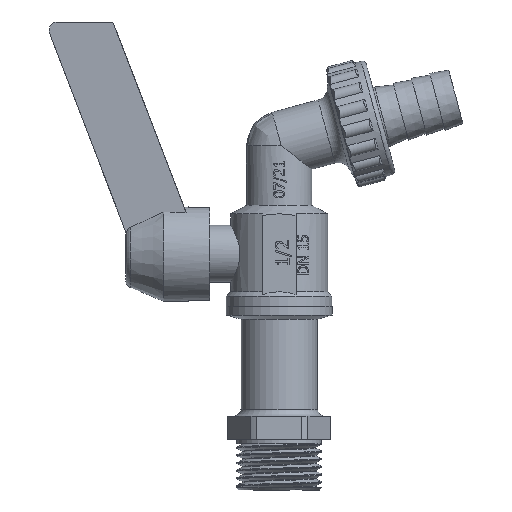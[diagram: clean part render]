
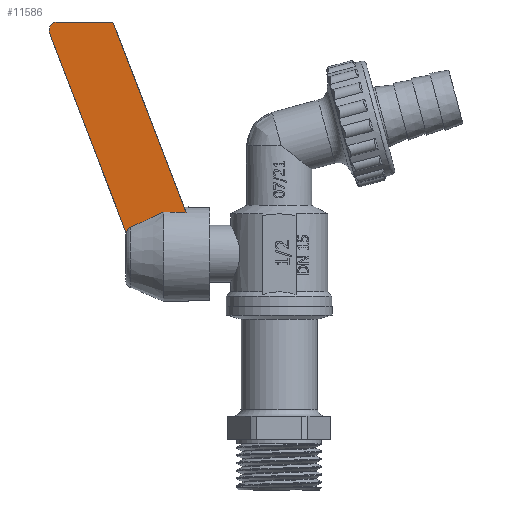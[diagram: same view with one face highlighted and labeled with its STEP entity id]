
A CAD part, left-side view. The second image highlights one B-rep face of the part: STEP entity #11586.
In plain terms, the highlighted planar face has unit normal (-0.999, 0.041, -0.016) as drawn and (0.016, 0.041, -0.999) by its records, which use the part's own axes.
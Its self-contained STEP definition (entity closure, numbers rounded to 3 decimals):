
#266=B_SPLINE_CURVE_WITH_KNOTS('',3,(#16543,#16544,#16545,#16546,#16547,
#16548,#16549,#16550),.UNSPECIFIED.,.F.,.F.,(4,2,2,4),(2.233,
2.312,2.396,2.404),.UNSPECIFIED.);
#761=ELLIPSE('',#12480,2.002,2.);
#762=ELLIPSE('',#12483,276.262,11.25);
#911=(
BOUNDED_CURVE()
B_SPLINE_CURVE(2,(#16552,#16553,#16554),.UNSPECIFIED.,.F.,.F.)
B_SPLINE_CURVE_WITH_KNOTS((3,3),(36.597,50.853),
 .UNSPECIFIED.)
CURVE()
GEOMETRIC_REPRESENTATION_ITEM()
RATIONAL_B_SPLINE_CURVE((30.048,34.63,38.375))
REPRESENTATION_ITEM('')
);
#1051=PLANE('',#12482);
#1350=FACE_OUTER_BOUND('',#2024,.T.);
#2024=EDGE_LOOP('',(#7970,#7971,#7972,#7973,#7974,#7975,#7976));
#3230=LINE('',#16535,#4000);
#3233=LINE('',#16541,#4003);
#3234=LINE('',#16557,#4004);
#4000=VECTOR('',#13670,10.);
#4003=VECTOR('',#13675,10.);
#4004=VECTOR('',#13678,10.);
#4781=VERTEX_POINT('',#16528);
#4782=VERTEX_POINT('',#16530);
#4783=VERTEX_POINT('',#16534);
#4785=VERTEX_POINT('',#16540);
#4786=VERTEX_POINT('',#16542);
#4787=VERTEX_POINT('',#16551);
#4788=VERTEX_POINT('',#16555);
#6053=EDGE_CURVE('',#4781,#4782,#761,.T.);
#6055=EDGE_CURVE('',#4783,#4782,#3230,.T.);
#6058=EDGE_CURVE('',#4781,#4785,#3233,.T.);
#6059=EDGE_CURVE('',#4786,#4785,#266,.T.);
#6060=EDGE_CURVE('',#4787,#4786,#911,.T.);
#6061=EDGE_CURVE('',#4788,#4787,#762,.T.);
#6062=EDGE_CURVE('',#4788,#4783,#3234,.T.);
#7970=ORIENTED_EDGE('',*,*,#6053,.F.);
#7971=ORIENTED_EDGE('',*,*,#6058,.T.);
#7972=ORIENTED_EDGE('',*,*,#6059,.F.);
#7973=ORIENTED_EDGE('',*,*,#6060,.F.);
#7974=ORIENTED_EDGE('',*,*,#6061,.F.);
#7975=ORIENTED_EDGE('',*,*,#6062,.T.);
#7976=ORIENTED_EDGE('',*,*,#6055,.T.);
#11586=ADVANCED_FACE('',(#1350),#1051,.T.);
#12480=AXIS2_PLACEMENT_3D('',#16531,#13665,#13666);
#12482=AXIS2_PLACEMENT_3D('',#16539,#13673,#13674);
#12483=AXIS2_PLACEMENT_3D('',#16556,#13676,#13677);
#13665=DIRECTION('center_axis',(-0.016,-0.041,
0.999));
#13666=DIRECTION('ref_axis',(0.358,0.933,0.044));
#13670=DIRECTION('',(0.,0.999,0.041));
#13673=DIRECTION('center_axis',(0.016,0.041,-0.999));
#13674=DIRECTION('ref_axis',(-1.,0.,-0.016));
#13675=DIRECTION('',(0.934,-0.358,0.));
#13676=DIRECTION('center_axis',(0.016,0.041,-0.999));
#13677=DIRECTION('ref_axis',(-0.001,0.999,0.041));
#13678=DIRECTION('',(-0.934,0.358,0.));
#16528=CARTESIAN_POINT('',(-52.283,33.024,-4.845));
#16530=CARTESIAN_POINT('',(-55.,31.157,-4.964));
#16531=CARTESIAN_POINT('Origin',(-53.,31.157,-4.932));
#16534=CARTESIAN_POINT('',(-55.,18.,-5.5));
#16535=CARTESIAN_POINT('',(-55.,25.73,-5.185));
#16539=CARTESIAN_POINT('Origin',(-29.753,17.18,-5.138));
#16540=CARTESIAN_POINT('',(-4.943,14.852,-4.845));
#16541=CARTESIAN_POINT('',(-15.923,19.067,-4.845));
#16542=CARTESIAN_POINT('',(-6.331,13.769,-4.911));
#16543=CARTESIAN_POINT('Ctrl Pts',(-6.331,13.769,-4.911));
#16544=CARTESIAN_POINT('Ctrl Pts',(-6.214,14.008,-4.899));
#16545=CARTESIAN_POINT('Ctrl Pts',(-6.011,14.25,-4.886));
#16546=CARTESIAN_POINT('Ctrl Pts',(-5.586,14.588,-4.866));
#16547=CARTESIAN_POINT('Ctrl Pts',(-5.287,14.74,-4.855));
#16548=CARTESIAN_POINT('Ctrl Pts',(-4.996,14.836,-4.847));
#16549=CARTESIAN_POINT('Ctrl Pts',(-4.97,14.844,-4.846));
#16550=CARTESIAN_POINT('Ctrl Pts',(-4.943,14.852,-4.845));
#16551=CARTESIAN_POINT('',(-9.932,6.,-5.284));
#16552=CARTESIAN_POINT('Ctrl Pts',(-9.932,6.,-5.284));
#16553=CARTESIAN_POINT('Ctrl Pts',(-7.816,10.738,-5.058));
#16554=CARTESIAN_POINT('Ctrl Pts',(-6.331,13.769,-4.911));
#16555=CARTESIAN_POINT('',(-9.814,0.655,-5.5));
#16556=CARTESIAN_POINT('Origin',(0.,131.82,0.));
#16557=CARTESIAN_POINT('',(-55.,18.,-5.5));
